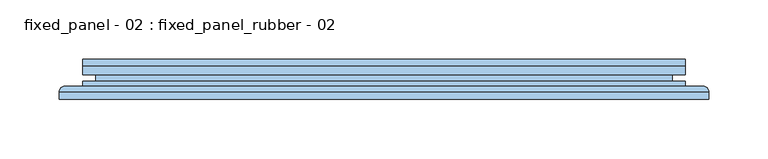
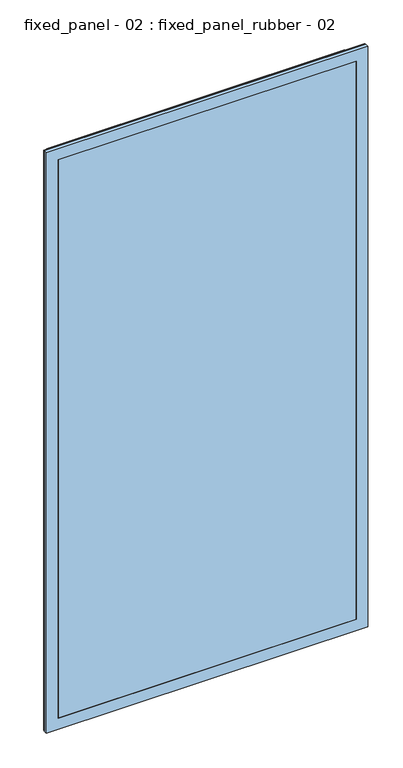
"""IFC4 building model written with IfcOpenShell, lengths in millimetres: window geometry, fixed_panel - 02 : fixed_panel_rubber - 02."""

import ifcopenshell
import ifcopenshell.guid

model = None  # the IFC model being written
_history = None  # IfcOwnerHistory: only IFC2X3 demands one
_inside = {}  # id of a spatial element -> (the spatial element, [elements in it])
_under = {}  # id of a project, library or spatial element -> (it, [spatial elements below it])
_declared = {}  # id of a project -> (the project, [libraries it declares])
_typed = {}  # id of a type object -> (the type object, [elements of that type])
_made_of = {}  # id of a material, layer set ... -> (it, [elements and type objects made of it])


def new_model(schema):
    """Start an empty IFC model of exactly this schema.

    Asked for "IFC4X3", IfcOpenShell would pick the latest addendum, in which some entities
    have other attributes; the version numbers below select the first issue.
    IFC2X3 requires an IfcOwnerHistory on every rooted entity: one is made here for all.
    """
    global model, _history
    if schema == "IFC4X3":
        model = ifcopenshell.file(schema_version=(4, 3, 0, 0))
    else:
        model = ifcopenshell.file(schema=schema)
    _inside.clear()
    _under.clear()
    _declared.clear()
    _typed.clear()
    _made_of.clear()
    _history = None
    if model.schema == "IFC2X3":
        org = make("IfcOrganization", Name="unknown")
        user = make(
            "IfcPersonAndOrganization",
            ThePerson=make("IfcPerson", FamilyName="unknown"),
            TheOrganization=org,
        )
        app = make(
            "IfcApplication",
            ApplicationDeveloper=org,
            Version="unknown",
            ApplicationFullName="unknown",
            ApplicationIdentifier="unknown",
        )
        _history = make(
            "IfcOwnerHistory",
            OwningUser=user,
            OwningApplication=app,
            ChangeAction="ADDED",
            CreationDate=0,
        )
    return model


def make(cls, **values):
    """One entity of the class cls with the attributes given. An attribute that is None is left unset."""
    return model.create_entity(
        cls, **{name: value for name, value in values.items() if value is not None}
    )


def rooted(cls, **values):
    """An entity with a GlobalId (a new one), such as an element, a storey or a relation."""
    return make(cls, GlobalId=ifcopenshell.guid.new(), OwnerHistory=_history, **values)


def si_unit(unit_type, name, prefix=None):
    """IfcSIUnit, for example si_unit("LENGTHUNIT", "METRE", prefix="MILLI")."""
    return make("IfcSIUnit", UnitType=unit_type, Prefix=prefix, Name=name)


def assignment(units):
    """IfcUnitAssignment: the units of a project."""
    return None if units is None else make("IfcUnitAssignment", Units=units)


def point(xyz):
    """IfcCartesianPoint."""
    return None if xyz is None else make("IfcCartesianPoint", Coordinates=xyz)


def direction(xyz):
    """IfcDirection."""
    return None if xyz is None else make("IfcDirection", DirectionRatios=xyz)


def frame(location, z_axis=None, x_axis=None):
    """IfcAxis2Placement3D, a coordinate frame: its origin and axes. An axis left out is left unset."""
    return make(
        "IfcAxis2Placement3D",
        Location=point(location),
        Axis=direction(z_axis),
        RefDirection=direction(x_axis),
    )


def origin():
    """The frame at (0, 0, 0) with its axes left unset."""
    return frame((0.0, 0.0, 0.0))


def place(relative_to, where):
    """IfcLocalPlacement: puts the frame where relative to a parent placement (None: the world)."""
    return make(
        "IfcLocalPlacement", PlacementRelTo=relative_to, RelativePlacement=where
    )


def context(
    kind, dimensions, precision=None, world=None, true_north=None, identifier=None
):
    """IfcGeometricRepresentationContext, for example the 3D "Model" context."""
    return make(
        "IfcGeometricRepresentationContext",
        ContextIdentifier=identifier,
        ContextType=kind,
        CoordinateSpaceDimension=dimensions,
        Precision=precision,
        WorldCoordinateSystem=world,
        TrueNorth=true_north,
    )


def project(units=None, contexts=None):
    """IfcProject with its units and contexts."""
    return rooted(
        "IfcProject",
        Name="project",
        RepresentationContexts=contexts,
        UnitsInContext=assignment(units),
    )


def spatial(cls, under=None, at=None, **own):
    """A site, building, storey or space (cls), placed at a placement, below another one or the project."""
    s = rooted(cls, ObjectPlacement=at, **own)
    if under is not None:
        _under.setdefault(under.id(), (under, []))[1].append(s)
    return s


def polyline(points):
    """IfcPolyline through the points."""
    return make("IfcPolyline", Points=[point(p) for p in points])


def ellipse_curve(where, semi_axis1, semi_axis2):
    """IfcEllipse in the frame where."""
    return make(
        "IfcEllipse", Position=where, SemiAxis1=semi_axis1, SemiAxis2=semi_axis2
    )


def outline(outer, holes=None, kind="AREA"):
    """IfcArbitraryClosedProfileDef: a profile drawn as a closed curve; with holes, ...WithVoids."""
    if holes is None:
        return make("IfcArbitraryClosedProfileDef", ProfileType=kind, OuterCurve=outer)
    return make(
        "IfcArbitraryProfileDefWithVoids",
        ProfileType=kind,
        OuterCurve=outer,
        InnerCurves=holes,
    )


def extrude(swept, where, along, depth):
    """IfcExtrudedAreaSolid: the profile swept, set in the frame where, extruded along a direction by depth."""
    return make(
        "IfcExtrudedAreaSolid",
        SweptArea=swept,
        Position=where,
        ExtrudedDirection=direction(along),
        Depth=depth,
    )


def faces_of(points, faces, orient=None, outer=None):
    """IfcFace entities. A face is a list of loops; a loop is a list of indices into points, from 0.

    orient and outer hold one flag for each loop. By default every Orientation is true, the
    first loop of a face is its IfcFaceOuterBound and the others are IfcFaceBound.
    """
    made = []
    for i, loops in enumerate(faces):
        bounds = []
        for j, loop in enumerate(loops):
            is_outer = j == 0 if outer is None else outer[i][j]
            bounds.append(
                make(
                    "IfcFaceOuterBound" if is_outer else "IfcFaceBound",
                    Bound=make("IfcPolyLoop", Polygon=[points[k] for k in loop]),
                    Orientation=True if orient is None else orient[i][j],
                )
            )
        made.append(make("IfcFace", Bounds=bounds))
    return made


def faceted_brep(points, faces, orient=None, outer=None, voids=None):
    """IfcFacetedBrep: a solid bounded by flat faces; with voids (closed shells), ...WithVoids."""
    shared = [point(p) for p in points]
    hull = make("IfcClosedShell", CfsFaces=faces_of(shared, faces, orient, outer))
    if voids is None:
        return make("IfcFacetedBrep", Outer=hull)
    return make(
        "IfcFacetedBrepWithVoids",
        Outer=hull,
        Voids=[
            make(cls, CfsFaces=faces_of(shared, fs, o, b)) for cls, fs, o, b in voids
        ],
    )


def shape(context_of_items, identifier, shape_type, items):
    """IfcShapeRepresentation: the items that make up one representation, for example the "Body"."""
    return make(
        "IfcShapeRepresentation",
        ContextOfItems=context_of_items,
        RepresentationIdentifier=identifier,
        RepresentationType=shape_type,
        Items=items,
    )


def source(mapping_origin, context_of_items, identifier, shape_type, items):
    """IfcRepresentationMap: a shape defined once, which mapped items show again and again."""
    return make(
        "IfcRepresentationMap",
        MappingOrigin=mapping_origin,
        MappedRepresentation=shape(context_of_items, identifier, shape_type, items),
    )


def transform(
    local_origin,
    x_axis=None,
    y_axis=None,
    z_axis=None,
    scale=None,
    scale2=None,
    scale3=None,
    uniform=True,
):
    """IfcCartesianTransformationOperator3D, or its non-uniform kind. x_axis, y_axis, z_axis: its Axis1, 2, 3."""
    if uniform:
        return make(
            "IfcCartesianTransformationOperator3D",
            Axis1=direction(x_axis),
            Axis2=direction(y_axis),
            LocalOrigin=point(local_origin),
            Scale=scale,
            Axis3=direction(z_axis),
        )
    return make(
        "IfcCartesianTransformationOperator3DnonUniform",
        Axis1=direction(x_axis),
        Axis2=direction(y_axis),
        LocalOrigin=point(local_origin),
        Scale=scale,
        Axis3=direction(z_axis),
        Scale2=scale2,
        Scale3=scale3,
    )


def mapped(mapping_source, mapping_target):
    """IfcMappedItem: shows the shape of a source again, moved by a transform."""
    return make(
        "IfcMappedItem", MappingSource=mapping_source, MappingTarget=mapping_target
    )


def made_of(thing, what):
    """Note that an element or type object is made of a material, layer set ...; save() writes the relation."""
    if what is not None:
        _made_of.setdefault(what.id(), (what, []))[1].append(thing)
    return thing


def element(
    cls,
    number,
    at=None,
    inside=None,
    cuts=None,
    type_object=None,
    material=None,
    context=None,
    identifier="Body",
    shape_type=None,
    held_by="IfcProductDefinitionShape",
    body=None,
    shapes=None,
    **own,
):
    """One element of the class cls, such as IfcWall. Its Tag is "e" and its number.

    at: its placement. inside: the storey or other place that contains it. cuts: it is an
    opening in that element (IfcRelVoidsElement). A single representation is given by context,
    identifier, shape_type and body (its items); several are given by shapes. held_by: the class
    of the entity that holds the representations. save() writes the other relations.
    """
    e = rooted(cls, Tag="e%d" % number, ObjectPlacement=at, **own)
    if body is not None:
        shapes = [shape(context, identifier, shape_type, body)]
    if shapes is not None:
        e.Representation = make(held_by, Representations=shapes)
    if inside is not None:
        _inside.setdefault(inside.id(), (inside, []))[1].append(e)
    if cuts is not None:
        rooted(
            "IfcRelVoidsElement", RelatingBuildingElement=cuts, RelatedOpeningElement=e
        )
    if type_object is not None:
        _typed.setdefault(type_object.id(), (type_object, []))[1].append(e)
    return made_of(e, material)


def aggregate(whole, parts):
    """IfcRelAggregates: a whole, such as a stair, and the parts it consists of."""
    return rooted("IfcRelAggregates", RelatingObject=whole, RelatedObjects=parts)


def save(model, path):
    """Write the relations noted so far, then the file.

    IfcRelAggregates (storeys below a building ...), IfcRelContainedInSpatialStructure (elements
    in a storey), IfcRelDefinesByType, IfcRelAssociatesMaterial and IfcRelDeclares: one each for
    every whole, place, type object, material and project.
    """
    for whole, parts in _under.values():
        aggregate(whole, parts)
    for where, things in _inside.values():
        rooted(
            "IfcRelContainedInSpatialStructure",
            RelatedElements=things,
            RelatingStructure=where,
        )
    for kind, things in _typed.values():
        rooted("IfcRelDefinesByType", RelatedObjects=things, RelatingType=kind)
    for what, things in _made_of.values():
        rooted("IfcRelAssociatesMaterial", RelatedObjects=things, RelatingMaterial=what)
    for by, libraries in _declared.values():
        rooted("IfcRelDeclares", RelatingContext=by, RelatedDefinitions=libraries)
    model.write(path)


def plane_surface(at):
    """IfcPlane: the flat surface through the origin of the frame at, square to its z axis."""
    return make("IfcPlane", Position=at)


def cylinder_surface(at, radius):
    """IfcCylindricalSurface: all points at the distance radius from the z axis of the frame at."""
    return make("IfcCylindricalSurface", Position=at, Radius=radius)


def advanced_brep(points, edges, surfaces, faces):
    """IfcAdvancedBrep: a solid bounded by faces that lie on surfaces and meet in shared edges.

    An edge is (start, end): straight between two places in points (the first is 0);
    or (start, end, curve); or (start, end, curve, False) where it runs against its curve.
    A face is (place in surfaces, loops), or (place, loops, False) where it looks against
    its surface's normal. A loop lists edges by number (the first is 1), with a minus sign
    where the edge is run from its end to its start. The first loop is the outer one.
    """
    corners = [point(p) for p in points]
    vertices = [make("IfcVertexPoint", VertexGeometry=c) for c in corners]
    made = []
    for start, end, *more in edges:
        made.append(
            make(
                "IfcEdgeCurve",
                EdgeStart=vertices[start],
                EdgeEnd=vertices[end],
                EdgeGeometry=more[0] if more else make("IfcPolyline", Points=[corners[start], corners[end]]),
                SameSense=more[1] if len(more) > 1 else True,
            )
        )
    hull = []
    for where, loops, *sense in faces:
        bounds = []
        for j, loop in enumerate(loops):
            ring = [make("IfcOrientedEdge", EdgeElement=made[abs(k) - 1], Orientation=k > 0) for k in loop]
            bounds.append(
                make(
                    "IfcFaceOuterBound" if j == 0 else "IfcFaceBound",
                    Bound=make("IfcEdgeLoop", EdgeList=ring),
                    Orientation=True,
                )
            )
        hull.append(make("IfcAdvancedFace", Bounds=bounds, FaceSurface=surfaces[where], SameSense=sense[0] if sense else True))
    return make("IfcAdvancedBrep", Outer=make("IfcClosedShell", CfsFaces=hull))


def fixed_panel_02_fixed_panel_rubber_02_0f69a50b(model_context):
    return source(origin(), model_context, "Body", "SolidModel", [
        advanced_brep(
        [(254.9999306, -27.9878211, 990.0157965), (259.9999306, -22.9878211, 995.0157965), (259.9999306, -22.9878211, -25.0), (254.9999306, -27.9878211, -20.0), (269.9976085, -22.9878211, -34.9976779), (-269.9976085, -22.9878211, -34.9976779), (-269.9976085, -22.9878211, 1005.0134744), (269.9976085, -22.9878211, 1005.0134744), (-259.9999306, -22.9878211, 995.0157965), (-259.9999306, -22.9878211, -25.0), (-254.9999306, -27.9878211, -20.0), (254.9999306, -34.0, 990.0157965), (254.9999306, -34.0, -20.0), (-254.9999306, -34.0, -20.0), (274.9932841, -34.0, 1010.00915), (-274.9932841, -34.0, 1010.00915), (-274.9932841, -34.0, -39.9933535), (274.9932841, -34.0, -39.9933535), (-254.9999306, -34.0, 990.0157965), (274.9932841, -27.9834967, 1010.00915), (274.9932841, -27.9834967, -39.9933535), (-274.9932841, -27.9834967, -39.9933535), (-254.9999306, -27.9878211, 990.0157965), (-274.9932841, -27.9834967, 1010.00915)],
        [
            (0, 1, ellipse_curve(frame((259.9999306, -27.9878211, 995.0157965), z_axis=(0.7071067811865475, 0.0, -0.7071067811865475), x_axis=(0.7071067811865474, 0.0, 0.7071067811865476)), 7.0710678, 5.0)),
            (1, 2),
            (2, 3, ellipse_curve(frame((259.9999306, -27.9878211, -25.0), z_axis=(0.7071067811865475, 0.0, 0.7071067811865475), x_axis=(-0.7071067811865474, 0.0, 0.7071067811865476)), 7.0710678, 5.0)),
            (3, 0),
            (4, 5),
            (5, 6),
            (6, 7),
            (7, 4),
            (1, 8),
            (8, 9),
            (9, 2),
            (9, 10, ellipse_curve(frame((-259.9999306, -27.9878211, -25.0), z_axis=(0.7071067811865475, 0.0, -0.7071067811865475), x_axis=(0.7071067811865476, 0.0, 0.7071067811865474)), 7.0710678, 5.0)),
            (10, 3),
            (11, 0),
            (3, 12),
            (12, 11),
            (10, 13),
            (13, 12),
            (14, 15),
            (15, 16),
            (16, 17),
            (17, 14),
            (13, 18),
            (18, 11),
            (19, 14),
            (17, 20),
            (20, 19),
            (16, 21),
            (21, 20),
            (7, 19, ellipse_curve(frame((269.9976085, -27.9834967, 1005.0134744), z_axis=(0.7071067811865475, 0.0, -0.7071067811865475), x_axis=(0.7071067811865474, 0.0, 0.7071067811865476)), 7.0649521, 4.9956756)),
            (20, 4, ellipse_curve(frame((269.9976085, -27.9834967, -34.9976779), z_axis=(0.7071067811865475, 0.0, 0.7071067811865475), x_axis=(-0.7071067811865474, 0.0, 0.7071067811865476)), 7.0649521, 4.9956756)),
            (21, 5, ellipse_curve(frame((-269.9976085, -27.9834967, -34.9976779), z_axis=(0.7071067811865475, 0.0, -0.7071067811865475), x_axis=(0.7071067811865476, 0.0, 0.7071067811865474)), 7.0649521, 4.9956756)),
            (8, 22, ellipse_curve(frame((-259.9999306, -27.9878211, 995.0157965), z_axis=(-0.7071067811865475, 0.0, -0.7071067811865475), x_axis=(0.7071067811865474, 0.0, -0.7071067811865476)), 7.0710678, 5.0)),
            (22, 10),
            (22, 18),
            (15, 23),
            (23, 21),
            (23, 6, ellipse_curve(frame((-269.9976085, -27.9834967, 1005.0134744), z_axis=(-0.7071067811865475, 0.0, -0.7071067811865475), x_axis=(0.7071067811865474, 0.0, -0.7071067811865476)), 7.0649521, 4.9956756)),
            (0, 22),
            (19, 23),
        ],
        [
            cylinder_surface(frame((259.9999306, -27.9878211, 990.0157965), z_axis=(0.0, 0.0, 1.0), x_axis=(1.0, 0.0, 0.0)), 5.0),
            plane_surface(frame((-269.9976085, -22.9878211, 1005.0134744), z_axis=(0.0, 1.0, 0.0), x_axis=(1.0, 0.0, 0.0))),
            cylinder_surface(frame((254.9999306, -27.9878211, -25.0), z_axis=(1.0, 0.0, 0.0), x_axis=(0.0, 0.0, -1.0)), 5.0),
            plane_surface(frame((254.9999306, -27.9878211, 990.0157965), z_axis=(-1.0, 0.0, 0.0), x_axis=(0.0, 0.0, -1.0))),
            plane_surface(frame((254.9999306, -27.9878211, -20.0), z_axis=(0.0, 0.0, 1.0), x_axis=(-1.0, 0.0, 0.0))),
            plane_surface(frame((-254.9999306, -34.0, 990.0157965), z_axis=(0.0, -1.0, 0.0), x_axis=(1.0, 0.0, 0.0))),
            plane_surface(frame((274.9932841, -34.0, 1010.00915), z_axis=(1.0, 0.0, 0.0), x_axis=(0.0, 0.0, -1.0))),
            plane_surface(frame((274.9932841, -34.0, -39.9933535), z_axis=(0.0, 0.0, -1.0), x_axis=(-1.0, 0.0, 0.0))),
            cylinder_surface(frame((269.9976085, -27.9834967, 990.0157965), z_axis=(0.0, 0.0, 1.0), x_axis=(1.0, 0.0, 0.0)), 4.9956756),
            cylinder_surface(frame((254.9999306, -27.9834967, -34.9976779), z_axis=(1.0, 0.0, 0.0), x_axis=(0.0, 0.0, -1.0)), 4.9956756),
            cylinder_surface(frame((-259.9999306, -27.9878211, -20.0), z_axis=(0.0, 0.0, -1.0), x_axis=(-1.0, 0.0, 0.0)), 5.0),
            plane_surface(frame((-254.9999306, -27.9878211, -20.0), z_axis=(1.0, 0.0, 0.0), x_axis=(0.0, 0.0, 1.0))),
            plane_surface(frame((-274.9932841, -34.0, -39.9933535), z_axis=(-1.0, 0.0, 0.0), x_axis=(0.0, 0.0, 1.0))),
            cylinder_surface(frame((-269.9976085, -27.9834967, -20.0), z_axis=(0.0, 0.0, -1.0), x_axis=(-1.0, 0.0, 0.0)), 4.9956756),
            cylinder_surface(frame((-254.9999306, -27.9878211, 995.0157965), z_axis=(-1.0, 0.0, 0.0), x_axis=(0.0, 0.0, 1.0)), 5.0),
            plane_surface(frame((-254.9999306, -27.9878211, 990.0157965), z_axis=(0.0, 0.0, -1.0), x_axis=(1.0, 0.0, 0.0))),
            plane_surface(frame((-274.9932841, -34.0, 1010.00915), z_axis=(0.0, 0.0, 1.0), x_axis=(1.0, 0.0, 0.0))),
            cylinder_surface(frame((-254.9999306, -27.9834967, 1005.0134744), z_axis=(-1.0, 0.0, 0.0), x_axis=(0.0, 0.0, 1.0)), 4.9956756),
        ],
        [
            (0, [[1, 2, 3, 4]]),
            (1, [[5, 6, 7, 8], [9, 10, 11, -2]]),
            (2, [[-3, -11, 12, 13]]),
            (3, [[14, -4, 15, 16]]),
            (4, [[-15, -13, 17, 18]]),
            (5, [[19, 20, 21, 22], [-18, 23, 24, -16]]),
            (6, [[25, -22, 26, 27]]),
            (7, [[-26, -21, 28, 29]]),
            (8, [[30, -27, 31, -8]]),
            (9, [[-31, -29, 32, -5]]),
            (10, [[-12, -10, 33, 34]]),
            (11, [[-17, -34, 35, -23]]),
            (12, [[-28, -20, 36, 37]]),
            (13, [[-32, -37, 38, -6]]),
            (14, [[-33, -9, -1, 39]]),
            (15, [[-35, -39, -14, -24]]),
            (16, [[-36, -19, -25, 40]]),
            (17, [[-38, -40, -30, -7]]),
        ],
    ),
        faceted_brep([(228.9999306, -26.0, 964.0157965), (228.9999306, -6.0, 964.0157965), (228.9999306, -6.0, 6.0), (228.9999306, -26.0, 6.0), (254.9999306, -6.0, -20.0), (-254.9999306, -6.0, -20.0), (-254.9999306, -6.0, 990.0157965), (254.9999306, -6.0, 990.0157965), (-228.9999306, -6.0, 964.0157965), (-228.9999306, -6.0, 6.0), (-228.9999306, -26.0, 6.0), (254.9999306, -26.0, 990.0157965), (-254.9999306, -26.0, 990.0157965), (-254.9999306, -26.0, -20.0), (254.9999306, -26.0, -20.0), (-228.9999306, -26.0, 964.0157965), (254.9999306, -18.8, 990.0157965), (254.9999306, -18.8, -20.0), (-254.9999306, -18.8, -20.0), (-254.9999306, -18.8, 990.0157965), (243.9999306, -18.8, 979.0157965), (-243.9999306, -18.8, 979.0157965), (-243.9999306, -18.8, -9.0), (243.9999306, -18.8, -9.0), (243.9999306, -13.2, 979.0157965), (243.9999306, -13.2, -9.0), (-243.9999306, -13.2, -9.0), (254.9999306, -13.2, 990.0157965), (-254.9999306, -13.2, 990.0157965), (-254.9999306, -13.2, -20.0), (254.9999306, -13.2, -20.0), (-243.9999306, -13.2, 979.0157965)], [[[0, 1, 2, 3]], [[4, 5, 6, 7], [1, 8, 9, 2]], [[3, 2, 9, 10]], [[11, 12, 13, 14], [3, 10, 15, 0]], [[16, 11, 14, 17]], [[17, 14, 13, 18]], [[17, 18, 19, 16], [20, 21, 22, 23]], [[24, 20, 23, 25]], [[25, 23, 22, 26]], [[27, 28, 29, 30], [25, 26, 31, 24]], [[7, 27, 30, 4]], [[4, 30, 29, 5]], [[10, 9, 8, 15]], [[18, 13, 12, 19]], [[26, 22, 21, 31]], [[5, 29, 28, 6]], [[15, 8, 1, 0]], [[19, 12, 11, 16]], [[31, 21, 20, 24]], [[6, 28, 27, 7]]]),
        extrude(outline(polyline([(254.9999306, -34.0), (-254.9999306, -34.0), (-254.9999306, -26.0), (254.9999306, -26.0), (254.9999306, -34.0)])), frame((0.0, 0.0, -20.0), z_axis=(0.0, 0.0, 1.0), x_axis=(1.0, 0.0, 0.0)), (0.0, 0.0, 1.0), 1010.0157965),
        extrude(outline(polyline([(254.9999306, -6.0), (-254.9999306, -6.0), (-254.9999306, 0.0), (254.9999306, 0.0), (254.9999306, -6.0)])), frame((0.0, 0.0, -20.0), z_axis=(0.0, 0.0, 1.0), x_axis=(1.0, 0.0, 0.0)), (0.0, 0.0, 1.0), 1010.0157965),
    ])


if __name__ == "__main__":
    model = new_model("IFC4")
    model_context = context("Model", 3, world=origin())
    ifc_project = project(units=[si_unit("LENGTHUNIT", "METRE", prefix="MILLI")], contexts=[model_context])
    site = spatial("IfcSite", under=ifc_project)
    building = spatial("IfcBuilding", under=site)
    placement = place(None, origin())
    fixed_panel_02_fixed_panel_rubber_02_shape = fixed_panel_02_fixed_panel_rubber_02_0f69a50b(model_context)
    element("IfcWindow", 1, ObjectType="fixed_panel - 02 : fixed_panel_rubber - 02", at=placement, inside=building, context=model_context, shape_type="MappedRepresentation", body=[
        mapped(fixed_panel_02_fixed_panel_rubber_02_shape, transform((0.0, 0.0, 0.0), x_axis=(1.0, 0.0, 0.0), y_axis=(0.0, 1.0, 0.0), z_axis=(0.0, 0.0, 1.0))),
    ])
    save(model, "model.ifc")
